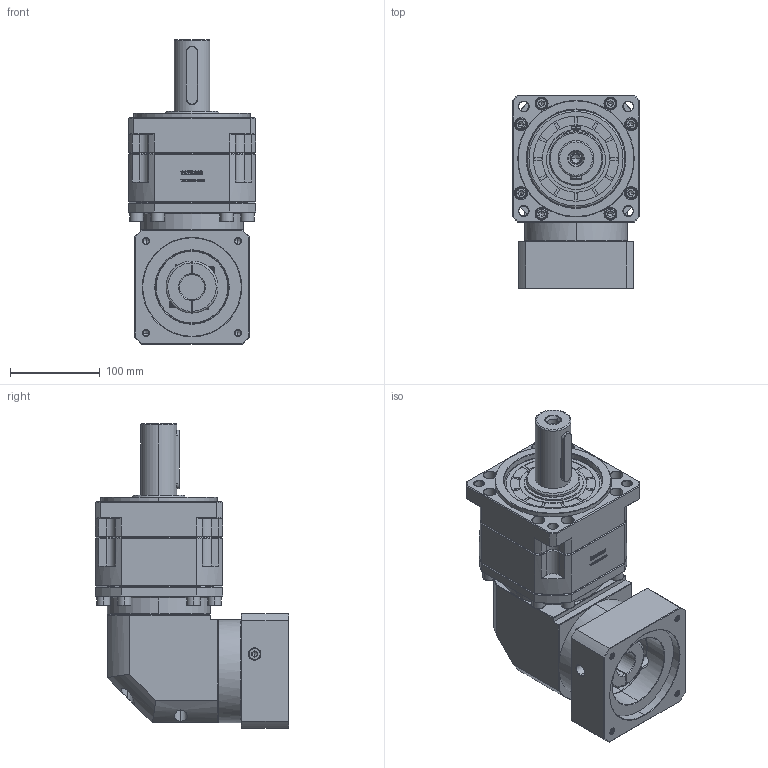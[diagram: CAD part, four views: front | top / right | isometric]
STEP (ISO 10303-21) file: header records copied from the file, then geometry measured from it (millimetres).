
FILE_DESCRIPTION (( 'STEP AP214' ), '1' );
FILE_NAME ('ZBR142A-D40-L2-28-110-145-M8.step', '2023-03-20T04:12:11', ( '' ), ( '' ), 'SwSTEP 2.0', 'SolidWorks 2016', '' );
FILE_SCHEMA (( 'AUTOMOTIVE_DESIGN' ));
Length unit declared in the file: millimetre
Products named in the file (1): ZBR142A-D40-L2-28-110-145-M8
Bounding box: 142 x 215.9 x 340.2 mm (x, y, z)
Volume: 4581650.3 mm3; surface area: 332165.3 mm2
Topology: 6 solids, 6 shells, 3193 faces, 8415 edges, 5387 vertices
Faces by surface type: plane 1653, bspline 593, cylinder 502, cone 399, torus 46
Entity records: 170789 total; most frequent: CARTESIAN_POINT 61470, ORIENTED_EDGE 16722, DIRECTION 13078, EDGE_CURVE 8361, VECTOR 5594, LINE 5594, VERTEX_POINT 5387, AXIS2_PLACEMENT_3D 3742
